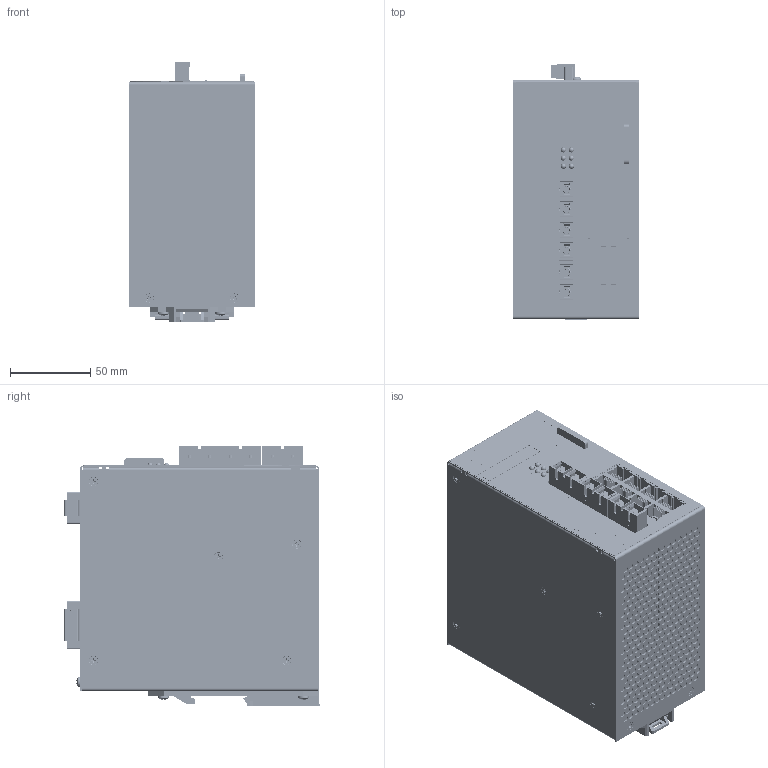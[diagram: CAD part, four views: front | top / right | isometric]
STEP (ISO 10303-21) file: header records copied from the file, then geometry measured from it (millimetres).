
FILE_DESCRIPTION (( 'STEP AP214' ), '1' );
FILE_NAME ('NT24K-11 GX-FX 3.STEP', '2023-02-28T18:30:14', ( '' ), ( '' ), 'SwSTEP 2.0', 'SolidWorks 2022', '' );
FILE_SCHEMA (( 'AUTOMOTIVE_DESIGN' ));
Length unit declared in the file: inch
Products named in the file (19): 11 GX3 DB_Fiber_SC; Part1; Front cover sheet metal; Left cover sheet metal; NPTH0022; Right cover sheet metal; mstb_2.5-4-5.08.stp; Part2; NHBDINR1; NHM06320_91249A144; NPTP0042; NT24K-11 GX-FX 3; NHM04404_96640A334; 670688000; 11 GX3 DB_Fiber_SC 3; LED; ethernet 2x4; pxc_1778001_08_MSTB-2-5-4-STF-5-08_3D.stp; Overlay
Assembly tree (35 placements, depth 4):
  NT24K-11 GX-FX 3
    Right cover sheet metal
    Left cover sheet metal
    Front cover sheet metal
    NHM04404_96640A334  x9
    NHBDINR1
    NHM06320_91249A144  x5
    670688000
    Part1
    Part2
    Overlay
    ethernet 2x4
    NPTH0022
    NPTP0042
      pxc_1778001_08_MSTB-2-5-4-STF-5-08_3D.stp
        mstb_2.5-4-5.08.stp
    11 GX3 DB_Fiber_SC
    LED  x6
    11 GX3 DB_Fiber_SC 3
Bounding box: 78.67 x 160.18 x 162.96 mm (x, y, z)
Volume: 1618681.2 mm3; surface area: 395527.5 mm2
Topology: 34 solids, 133 shells, 10613 faces, 29839 edges, 19604 vertices
Faces by surface type: plane 6789, cylinder 2949, bspline 581, cone 234, torus 44, sphere 16
Entity records: 442665 total; most frequent: CARTESIAN_POINT 133206, ORIENTED_EDGE 54383, DIRECTION 36911, EDGE_CURVE 27293, VERTEX_POINT 17936, AXIS2_PLACEMENT_3D 13220, B_SPLINE_CURVE_WITH_KNOTS 12339, EDGE_LOOP 11623
